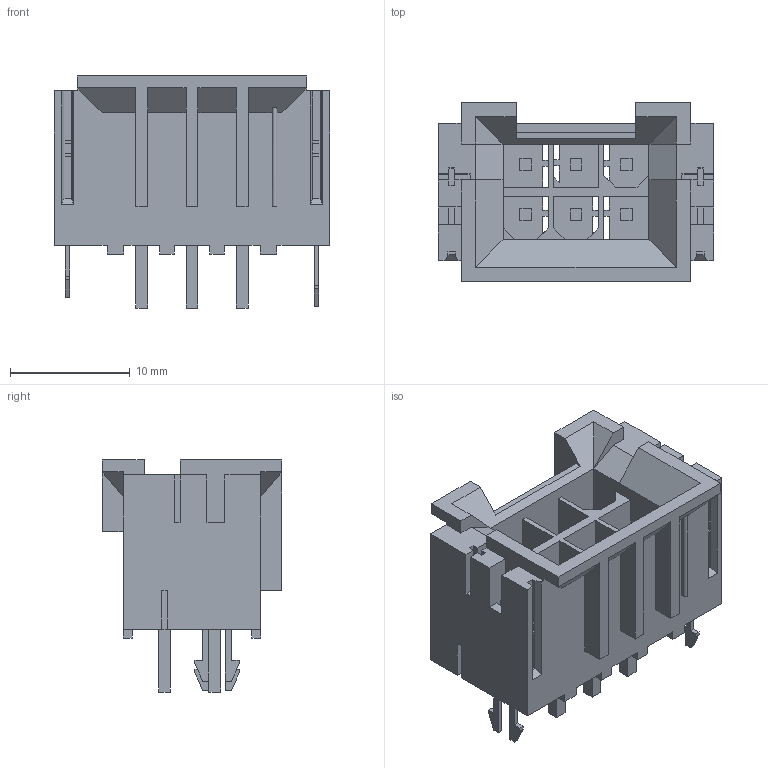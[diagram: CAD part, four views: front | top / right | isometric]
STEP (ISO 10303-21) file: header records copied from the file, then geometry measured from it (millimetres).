
FILE_DESCRIPTION((''),'2;1');
FILE_NAME('440680057','2015-10-20T',('me'),(''),'PRO/ENGINEER BY PARAMETRIC TECHNOLOGY CORPORATION, 2011490','PRO/ENGINEER BY PARAMETRIC TECHNOLOGY CORPORATION, 2011490','');
FILE_SCHEMA(('CONFIG_CONTROL_DESIGN'));
Length unit declared in the file: millimetre
Products named in the file (1): 440680057
Bounding box: 23.01 x 15 x 19.4 mm (x, y, z)
Volume: 2678.1 mm3; surface area: 2996.3 mm2
Topology: 1 solids, 1 shells, 337 faces, 973 edges, 642 vertices
Faces by surface type: plane 336, cylinder 1
Entity records: 10885 total; most frequent: CARTESIAN_POINT 1946, ORIENTED_EDGE 1914, DIRECTION 1665, EDGE_CURVE 957, VECTOR 953, LINE 953, VERTEX_POINT 626, EDGE_LOOP 365
